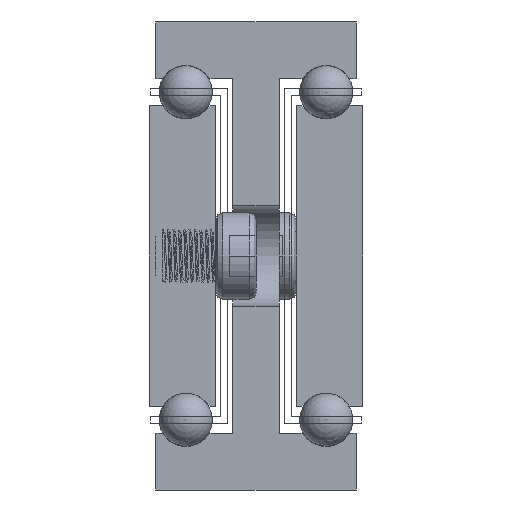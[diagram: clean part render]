
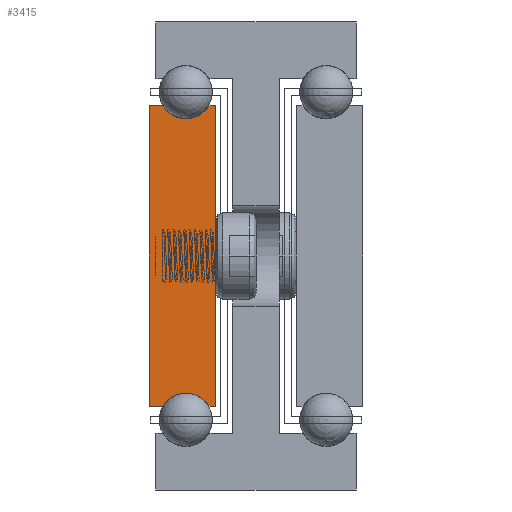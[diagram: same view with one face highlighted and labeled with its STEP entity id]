
A CAD part, front view. The second image highlights one B-rep face of the part: STEP entity #3415.
In plain terms, the highlighted planar face has unit normal (0, -1, 0).
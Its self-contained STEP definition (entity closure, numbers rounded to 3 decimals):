
#220=LINE('',#5130,#432);
#223=LINE('',#5136,#435);
#227=LINE('',#5148,#439);
#230=LINE('',#5154,#442);
#233=LINE('',#5160,#445);
#237=LINE('',#5170,#449);
#432=VECTOR('',#4114,1.);
#435=VECTOR('',#4119,1.);
#439=VECTOR('',#4131,1.);
#442=VECTOR('',#4136,1.);
#445=VECTOR('',#4141,1.);
#449=VECTOR('',#4153,1.);
#649=PLANE('',#3679);
#925=FACE_OUTER_BOUND('',#1143,.T.);
#1143=EDGE_LOOP('',(#2648,#2649,#2650,#2651,#2652,#2653,#2654,#2655));
#1473=CIRCLE('',#3670,4.);
#1475=CIRCLE('',#3676,4.);
#1702=VERTEX_POINT('',#5127);
#1703=VERTEX_POINT('',#5129);
#1705=VERTEX_POINT('',#5135);
#1707=VERTEX_POINT('',#5141);
#1709=VERTEX_POINT('',#5147);
#1711=VERTEX_POINT('',#5153);
#1713=VERTEX_POINT('',#5159);
#1715=VERTEX_POINT('',#5165);
#2124=EDGE_CURVE('',#1703,#1702,#220,.T.);
#2127=EDGE_CURVE('',#1705,#1703,#223,.T.);
#2130=EDGE_CURVE('',#1707,#1705,#1473,.T.);
#2133=EDGE_CURVE('',#1709,#1707,#227,.T.);
#2136=EDGE_CURVE('',#1711,#1709,#230,.T.);
#2139=EDGE_CURVE('',#1713,#1711,#233,.T.);
#2142=EDGE_CURVE('',#1715,#1713,#1475,.T.);
#2145=EDGE_CURVE('',#1702,#1715,#237,.T.);
#2648=ORIENTED_EDGE('',*,*,#2145,.T.);
#2649=ORIENTED_EDGE('',*,*,#2142,.T.);
#2650=ORIENTED_EDGE('',*,*,#2139,.T.);
#2651=ORIENTED_EDGE('',*,*,#2136,.T.);
#2652=ORIENTED_EDGE('',*,*,#2133,.T.);
#2653=ORIENTED_EDGE('',*,*,#2130,.T.);
#2654=ORIENTED_EDGE('',*,*,#2127,.T.);
#2655=ORIENTED_EDGE('',*,*,#2124,.T.);
#3415=ADVANCED_FACE('',(#925),#649,.T.);
#3670=AXIS2_PLACEMENT_3D('',#5142,#4125,#4126);
#3676=AXIS2_PLACEMENT_3D('',#5166,#4147,#4148);
#3679=AXIS2_PLACEMENT_3D('',#5172,#4156,#4157);
#4114=DIRECTION('',(0.,0.,-1.));
#4119=DIRECTION('',(-1.,0.,0.));
#4125=DIRECTION('center_axis',(0.,1.,0.));
#4126=DIRECTION('ref_axis',(-0.866,0.,-0.5));
#4131=DIRECTION('',(-1.,0.,0.));
#4136=DIRECTION('',(0.,0.,1.));
#4141=DIRECTION('',(1.,0.,0.));
#4147=DIRECTION('center_axis',(0.,1.,0.));
#4148=DIRECTION('ref_axis',(0.866,0.,0.5));
#4153=DIRECTION('',(1.,0.,0.));
#4156=DIRECTION('center_axis',(0.,-1.,0.));
#4157=DIRECTION('ref_axis',(1.,0.,0.));
#5127=CARTESIAN_POINT('',(-4155.358,-177.469,352.5));
#5129=CARTESIAN_POINT('',(-4155.358,-177.469,397.5));
#5130=CARTESIAN_POINT('',(-4155.358,-177.469,352.5));
#5135=CARTESIAN_POINT('',(-4153.322,-177.469,397.5));
#5136=CARTESIAN_POINT('',(-4155.358,-177.469,397.5));
#5141=CARTESIAN_POINT('',(-4146.394,-177.469,397.5));
#5142=CARTESIAN_POINT('Origin',(-4149.858,-177.469,399.5));
#5147=CARTESIAN_POINT('',(-4145.358,-177.469,397.5));
#5148=CARTESIAN_POINT('',(-4146.394,-177.469,397.5));
#5153=CARTESIAN_POINT('',(-4145.358,-177.469,352.5));
#5154=CARTESIAN_POINT('',(-4145.358,-177.469,397.5));
#5159=CARTESIAN_POINT('',(-4146.394,-177.469,352.5));
#5160=CARTESIAN_POINT('',(-4145.358,-177.469,352.5));
#5165=CARTESIAN_POINT('',(-4153.322,-177.469,352.5));
#5166=CARTESIAN_POINT('Origin',(-4149.858,-177.469,350.5));
#5170=CARTESIAN_POINT('',(-4153.322,-177.469,352.5));
#5172=CARTESIAN_POINT('Origin',(-4150.364,-177.469,375.));
